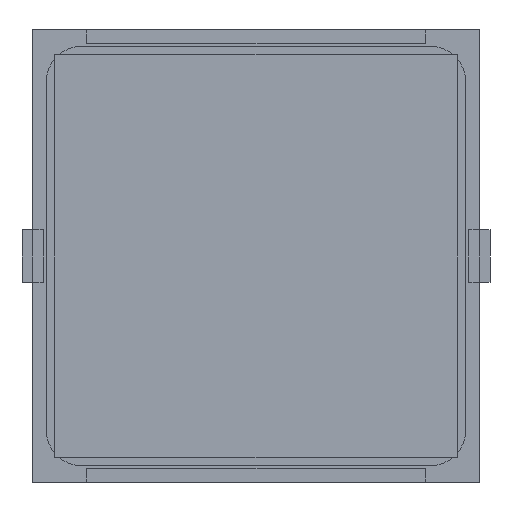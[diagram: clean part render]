
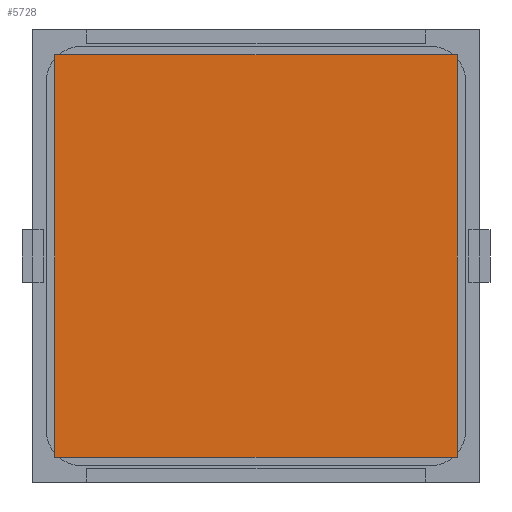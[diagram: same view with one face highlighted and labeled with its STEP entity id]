
A CAD part, front view. The second image highlights one B-rep face of the part: STEP entity #5728.
In plain terms, the highlighted planar face has unit normal (0, -1, 0).
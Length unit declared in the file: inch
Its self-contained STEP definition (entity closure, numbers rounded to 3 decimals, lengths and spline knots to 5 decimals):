
#481 = CARTESIAN_POINT ( 'NONE',  ( -0.74803, -0.005, 0.74803 ) ) ;
#594 = PLANE ( 'NONE',  #9898 ) ;
#782 = CARTESIAN_POINT ( 'NONE',  ( -0.74803, -0.005, -0.74803 ) ) ;
#861 = VERTEX_POINT ( 'NONE', #5863 ) ;
#1232 = LINE ( 'NONE', #10556, #1506 ) ;
#1506 = VECTOR ( 'NONE', #2211, 39.37008 ) ;
#2018 = EDGE_CURVE ( 'NONE', #7557, #861, #1232, .T. ) ;
#2211 = DIRECTION ( 'NONE',  ( 0., 0., 1. ) ) ;
#2430 = EDGE_CURVE ( 'NONE', #6341, #7557, #6656, .T. ) ;
#2637 = VERTEX_POINT ( 'NONE', #8274 ) ;
#3225 = EDGE_CURVE ( 'NONE', #861, #2637, #11532, .T. ) ;
#3625 = ORIENTED_EDGE ( 'NONE', *, *, #3225, .F. ) ;
#4760 = EDGE_LOOP ( 'NONE', ( #11259, #8283, #8617, #3625 ) ) ;
#5147 = FACE_OUTER_BOUND ( 'NONE', #4760, .T. ) ;
#5728 = ADVANCED_FACE ( 'NONE', ( #5147 ), #594, .F. ) ;
#5804 = DIRECTION ( 'NONE',  ( -1., 0., 0. ) ) ;
#5863 = CARTESIAN_POINT ( 'NONE',  ( -0.74803, -0.005, 0.74803 ) ) ;
#5995 = LINE ( 'NONE', #8798, #8366 ) ;
#5997 = DIRECTION ( 'NONE',  ( 1., 0., 0. ) ) ;
#6044 = DIRECTION ( 'NONE',  ( 0., 0., -1. ) ) ;
#6341 = VERTEX_POINT ( 'NONE', #8310 ) ;
#6656 = LINE ( 'NONE', #8542, #9104 ) ;
#7557 = VERTEX_POINT ( 'NONE', #782 ) ;
#8274 = CARTESIAN_POINT ( 'NONE',  ( 0.74803, -0.005, 0.74803 ) ) ;
#8283 = ORIENTED_EDGE ( 'NONE', *, *, #2430, .F. ) ;
#8310 = CARTESIAN_POINT ( 'NONE',  ( 0.74803, -0.005, -0.74803 ) ) ;
#8366 = VECTOR ( 'NONE', #6044, 39.37008 ) ;
#8468 = VECTOR ( 'NONE', #5997, 39.37008 ) ;
#8542 = CARTESIAN_POINT ( 'NONE',  ( -0.74803, -0.005, -0.74803 ) ) ;
#8617 = ORIENTED_EDGE ( 'NONE', *, *, #10362, .F. ) ;
#8798 = CARTESIAN_POINT ( 'NONE',  ( 0.74803, -0.005, -0.74803 ) ) ;
#9104 = VECTOR ( 'NONE', #5804, 39.37008 ) ;
#9898 = AXIS2_PLACEMENT_3D ( 'NONE', #10887, #11631, #10759 ) ;
#10362 = EDGE_CURVE ( 'NONE', #2637, #6341, #5995, .T. ) ;
#10556 = CARTESIAN_POINT ( 'NONE',  ( -0.74803, -0.005, -0.74803 ) ) ;
#10759 = DIRECTION ( 'NONE',  ( 0., 0., 1. ) ) ;
#10887 = CARTESIAN_POINT ( 'NONE',  ( -0.74803, -0.005, 0.74803 ) ) ;
#11259 = ORIENTED_EDGE ( 'NONE', *, *, #2018, .F. ) ;
#11532 = LINE ( 'NONE', #481, #8468 ) ;
#11631 = DIRECTION ( 'NONE',  ( 0., 1., 0. ) ) ;
